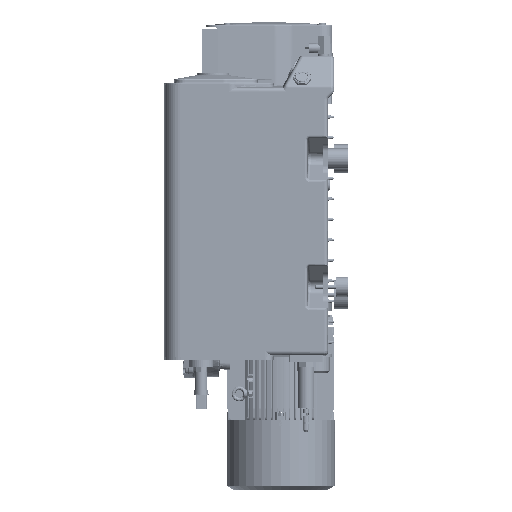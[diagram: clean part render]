
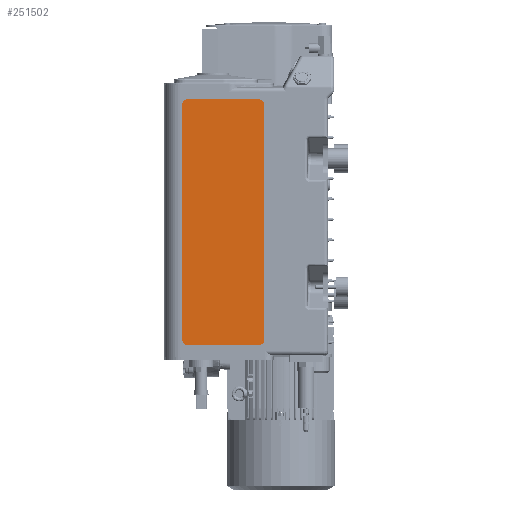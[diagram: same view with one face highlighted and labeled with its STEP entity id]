
A CAD part, left-side view. The second image highlights one B-rep face of the part: STEP entity #251502.
In plain terms, the highlighted planar face has unit normal (-1, 0, 0).
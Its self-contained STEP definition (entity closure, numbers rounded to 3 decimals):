
#239361=CARTESIAN_POINT('',(-265.162,360.995,-598.));
#239362=DIRECTION('',(-1.,0.,0.));
#239363=DIRECTION('',(0.,1.,0.));
#239364=AXIS2_PLACEMENT_3D('',#239361,#239362,#239363);
#239366=DIRECTION('',(0.,0.,-1.));
#239367=VECTOR('',#239366,576.);
#239368=CARTESIAN_POINT('',(-265.162,372.995,-22.));
#239369=LINE('',#239368,#239367);
#239370=CARTESIAN_POINT('',(-265.162,360.995,-22.));
#239371=DIRECTION('',(-1.,0.,0.));
#239372=DIRECTION('',(0.,0.,1.));
#239373=AXIS2_PLACEMENT_3D('',#239370,#239371,#239372);
#239375=DIRECTION('',(0.,1.,0.));
#239376=VECTOR('',#239375,176.);
#239377=CARTESIAN_POINT('',(-265.162,184.995,-10.));
#239378=LINE('',#239377,#239376);
#239379=CARTESIAN_POINT('',(-265.162,184.995,-22.));
#239380=DIRECTION('',(-1.,0.,0.));
#239381=DIRECTION('',(0.,-1.,0.));
#239382=AXIS2_PLACEMENT_3D('',#239379,#239380,#239381);
#239384=DIRECTION('',(0.,0.,1.));
#239385=VECTOR('',#239384,576.);
#239386=CARTESIAN_POINT('',(-265.162,172.995,-598.));
#239387=LINE('',#239386,#239385);
#239388=CARTESIAN_POINT('',(-265.162,184.995,-598.));
#239389=DIRECTION('',(-1.,0.,0.));
#239390=DIRECTION('',(0.,0.,-1.));
#239391=AXIS2_PLACEMENT_3D('',#239388,#239389,#239390);
#239393=DIRECTION('',(0.,-1.,0.));
#239394=VECTOR('',#239393,176.);
#239395=CARTESIAN_POINT('',(-265.162,360.995,-610.));
#239396=LINE('',#239395,#239394);
#246451=CARTESIAN_POINT('',(-265.162,372.995,-598.));
#246452=VERTEX_POINT('',#246451);
#246453=CARTESIAN_POINT('',(-265.162,360.995,-610.));
#246454=VERTEX_POINT('',#246453);
#246455=CARTESIAN_POINT('',(-265.162,184.995,-610.));
#246456=VERTEX_POINT('',#246455);
#246457=CARTESIAN_POINT('',(-265.162,172.995,-598.));
#246458=VERTEX_POINT('',#246457);
#246479=CARTESIAN_POINT('',(-265.162,172.995,-22.));
#246481=VERTEX_POINT('',#246479);
#246483=CARTESIAN_POINT('',(-265.162,184.995,-10.));
#246484=VERTEX_POINT('',#246483);
#246487=CARTESIAN_POINT('',(-265.162,360.995,-10.));
#246489=VERTEX_POINT('',#246487);
#246491=CARTESIAN_POINT('',(-265.162,372.995,-22.));
#246492=VERTEX_POINT('',#246491);
#251479=CARTESIAN_POINT('',(-265.162,267.995,22.));
#251480=DIRECTION('',(-1.,0.,0.));
#251481=DIRECTION('',(0.,0.,1.));
#251482=AXIS2_PLACEMENT_3D('',#251479,#251480,#251481);
#251483=PLANE('',#251482);
#251485=ORIENTED_EDGE('',*,*,#251484,.F.);
#251487=ORIENTED_EDGE('',*,*,#251486,.F.);
#251489=ORIENTED_EDGE('',*,*,#251488,.F.);
#251491=ORIENTED_EDGE('',*,*,#251490,.F.);
#251493=ORIENTED_EDGE('',*,*,#251492,.F.);
#251495=ORIENTED_EDGE('',*,*,#251494,.F.);
#251497=ORIENTED_EDGE('',*,*,#251496,.F.);
#251499=ORIENTED_EDGE('',*,*,#251498,.F.);
#251500=EDGE_LOOP('',(#251485,#251487,#251489,#251491,#251493,#251495,#251497,
#251499));
#251501=FACE_OUTER_BOUND('',#251500,.F.);
#251502=ADVANCED_FACE('',(#251501),#251483,.T.);
#239365=CIRCLE('',#239364,12.);
#239374=CIRCLE('',#239373,12.);
#239383=CIRCLE('',#239382,12.);
#239392=CIRCLE('',#239391,12.);
#251484=EDGE_CURVE('',#246452,#246454,#239365,.T.);
#251486=EDGE_CURVE('',#246492,#246452,#239369,.T.);
#251488=EDGE_CURVE('',#246489,#246492,#239374,.T.);
#251490=EDGE_CURVE('',#246484,#246489,#239378,.T.);
#251492=EDGE_CURVE('',#246481,#246484,#239383,.T.);
#251494=EDGE_CURVE('',#246458,#246481,#239387,.T.);
#251496=EDGE_CURVE('',#246456,#246458,#239392,.T.);
#251498=EDGE_CURVE('',#246454,#246456,#239396,.T.);
